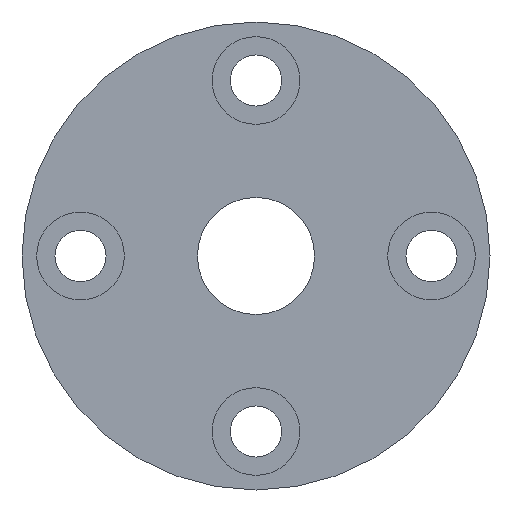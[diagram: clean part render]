
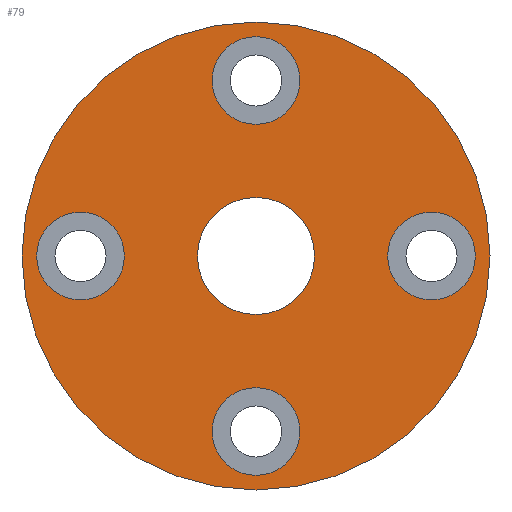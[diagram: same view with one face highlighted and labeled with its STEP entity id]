
A CAD part, left-side view. The second image highlights one B-rep face of the part: STEP entity #79.
In plain terms, the highlighted planar face has unit normal (-1, 0, 0).
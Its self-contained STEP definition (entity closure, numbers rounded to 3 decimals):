
#79 = ADVANCED_FACE( '', ( #110, #111, #112, #113, #114, #115 ), #116, .T. );
#110 = FACE_BOUND( '', #172, .T. );
#111 = FACE_BOUND( '', #173, .T. );
#112 = FACE_BOUND( '', #174, .T. );
#113 = FACE_BOUND( '', #175, .T. );
#114 = FACE_BOUND( '', #176, .T. );
#115 = FACE_OUTER_BOUND( '', #177, .T. );
#116 = PLANE( '', #178 );
#172 = EDGE_LOOP( '', ( #242 ) );
#173 = EDGE_LOOP( '', ( #243 ) );
#174 = EDGE_LOOP( '', ( #244 ) );
#175 = EDGE_LOOP( '', ( #245 ) );
#176 = EDGE_LOOP( '', ( #246 ) );
#177 = EDGE_LOOP( '', ( #247 ) );
#178 = AXIS2_PLACEMENT_3D( '', #248, #249, #250 );
#242 = ORIENTED_EDGE( '', *, *, #324, .T. );
#243 = ORIENTED_EDGE( '', *, *, #325, .T. );
#244 = ORIENTED_EDGE( '', *, *, #326, .T. );
#245 = ORIENTED_EDGE( '', *, *, #327, .T. );
#246 = ORIENTED_EDGE( '', *, *, #328, .T. );
#247 = ORIENTED_EDGE( '', *, *, #329, .F. );
#248 = CARTESIAN_POINT( '', ( 0., 16., 0. ) );
#249 = DIRECTION( '', ( -1., 0., 0. ) );
#250 = DIRECTION( '', ( 0., 0., 1. ) );
#324 = EDGE_CURVE( '', #354, #354, #355, .T. );
#325 = EDGE_CURVE( '', #356, #356, #357, .F. );
#326 = EDGE_CURVE( '', #358, #358, #359, .T. );
#327 = EDGE_CURVE( '', #360, #360, #361, .T. );
#328 = EDGE_CURVE( '', #362, #362, #363, .T. );
#329 = EDGE_CURVE( '', #364, #364, #365, .T. );
#354 = VERTEX_POINT( '', #398 );
#355 = CIRCLE( '', #399, 4. );
#356 = VERTEX_POINT( '', #400 );
#357 = CIRCLE( '', #401, 3. );
#358 = VERTEX_POINT( '', #402 );
#359 = CIRCLE( '', #403, 3. );
#360 = VERTEX_POINT( '', #404 );
#361 = CIRCLE( '', #405, 3. );
#362 = VERTEX_POINT( '', #406 );
#363 = CIRCLE( '', #407, 3. );
#364 = VERTEX_POINT( '', #408 );
#365 = CIRCLE( '', #409, 16. );
#398 = CARTESIAN_POINT( '', ( 0., 0., -4. ) );
#399 = AXIS2_PLACEMENT_3D( '', #450, #451, #452 );
#400 = CARTESIAN_POINT( '', ( 0., 12., 3. ) );
#401 = AXIS2_PLACEMENT_3D( '', #453, #454, #455 );
#402 = CARTESIAN_POINT( '', ( 0., 0., 9. ) );
#403 = AXIS2_PLACEMENT_3D( '', #456, #457, #458 );
#404 = CARTESIAN_POINT( '', ( 0., 0., -15. ) );
#405 = AXIS2_PLACEMENT_3D( '', #459, #460, #461 );
#406 = CARTESIAN_POINT( '', ( 0., -12., -3. ) );
#407 = AXIS2_PLACEMENT_3D( '', #462, #463, #464 );
#408 = CARTESIAN_POINT( '', ( 0., 0., -16. ) );
#409 = AXIS2_PLACEMENT_3D( '', #465, #466, #467 );
#450 = CARTESIAN_POINT( '', ( 0., 0., 0. ) );
#451 = DIRECTION( '', ( 1., 0., 0. ) );
#452 = DIRECTION( '', ( 0., 0., -1. ) );
#453 = CARTESIAN_POINT( '', ( 0., 12., 0. ) );
#454 = DIRECTION( '', ( -1., 0., 0. ) );
#455 = DIRECTION( '', ( 0., 0., 1. ) );
#456 = CARTESIAN_POINT( '', ( 0., 0., 12. ) );
#457 = DIRECTION( '', ( 1., 0., 0. ) );
#458 = DIRECTION( '', ( 0., 0., -1. ) );
#459 = CARTESIAN_POINT( '', ( 0., 0., -12. ) );
#460 = DIRECTION( '', ( 1., 0., 0. ) );
#461 = DIRECTION( '', ( 0., 0., -1. ) );
#462 = CARTESIAN_POINT( '', ( 0., -12., 0. ) );
#463 = DIRECTION( '', ( 1., 0., 0. ) );
#464 = DIRECTION( '', ( 0., 0., -1. ) );
#465 = CARTESIAN_POINT( '', ( 0., 0., 0. ) );
#466 = DIRECTION( '', ( 1., 0., 0. ) );
#467 = DIRECTION( '', ( 0., 0., -1. ) );
